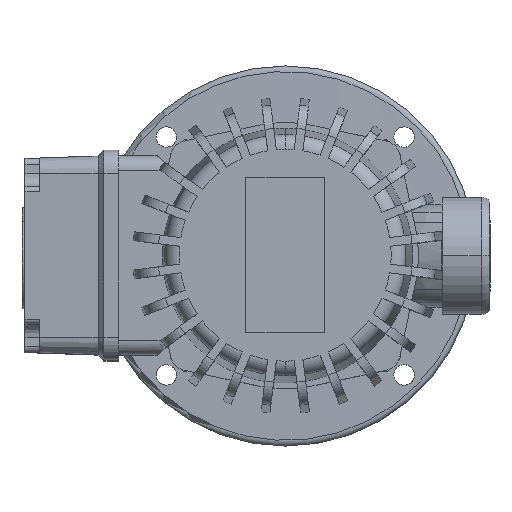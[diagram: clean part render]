
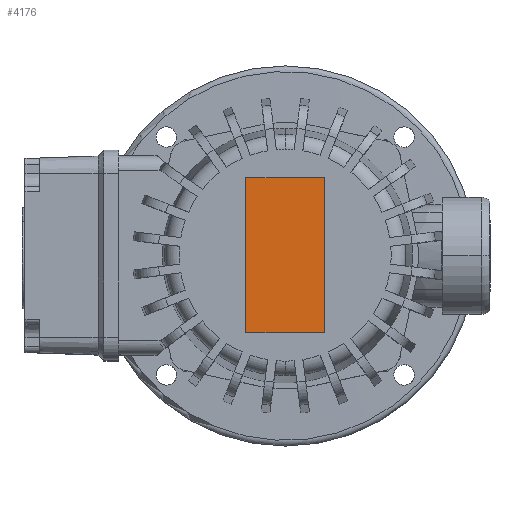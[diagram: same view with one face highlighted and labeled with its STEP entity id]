
A CAD part, top view. The second image highlights one B-rep face of the part: STEP entity #4176.
In plain terms, the highlighted planar face has unit normal (0, 0, 1).
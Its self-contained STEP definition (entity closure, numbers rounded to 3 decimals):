
#3988=VERTEX_POINT('',#10343);
#4066=EDGE_CURVE('',#6804,#7948,#10431,.T.);
#4176=ADVANCED_FACE('',(#10549),#10550,.T.);
#4514=EDGE_CURVE('',#7948,#9024,#10928,.T.);
#6804=VERTEX_POINT('',#13431);
#7948=VERTEX_POINT('',#14683);
#8250=EDGE_CURVE('',#9024,#3988,#15015,.T.);
#9024=VERTEX_POINT('',#15865);
#9216=EDGE_CURVE('',#3988,#6804,#16068,.T.);
#10343=CARTESIAN_POINT('',(-13.5,26.5,103.0));
#10431=LINE('',#18259,#18260);
#10549=FACE_OUTER_BOUND('',#18509,.T.);
#10550=PLANE('',#18510);
#10928=LINE('',#19207,#19208);
#13431=CARTESIAN_POINT('',(13.5,26.5,103.0));
#14683=CARTESIAN_POINT('',(13.5,-26.5,103.0));
#15015=LINE('',#27387,#27388);
#15865=CARTESIAN_POINT('',(-13.5,-26.5,103.0));
#16068=LINE('',#29506,#29507);
#18259=CARTESIAN_POINT('',(13.5,0.0,103.0));
#18260=VECTOR('',#31102,1.0);
#18509=EDGE_LOOP('',(#31217,#31218,#31219,#31220));
#18510=AXIS2_PLACEMENT_3D('',#31221,#31222,#31223);
#19207=CARTESIAN_POINT('',(0.0,-26.5,103.0));
#19208=VECTOR('',#31717,1.0);
#27387=CARTESIAN_POINT('',(-13.5,0.0,103.0));
#27388=VECTOR('',#36336,1.0);
#29506=CARTESIAN_POINT('',(0.0,26.5,103.0));
#29507=VECTOR('',#37427,1.0);
#31102=DIRECTION('',(0.0,-1.0,0.0));
#31217=ORIENTED_EDGE('',*,*,#9216,.F.);
#31218=ORIENTED_EDGE('',*,*,#8250,.F.);
#31219=ORIENTED_EDGE('',*,*,#4514,.F.);
#31220=ORIENTED_EDGE('',*,*,#4066,.F.);
#31221=CARTESIAN_POINT('',(0.0,0.0,103.0));
#31222=DIRECTION('',(0.0,-0.0,1.0));
#31223=DIRECTION('',(0.0,1.0,0.0));
#31717=DIRECTION('',(-1.0,0.0,0.0));
#36336=DIRECTION('',(0.0,1.0,0.0));
#37427=DIRECTION('',(1.0,0.0,0.0));
